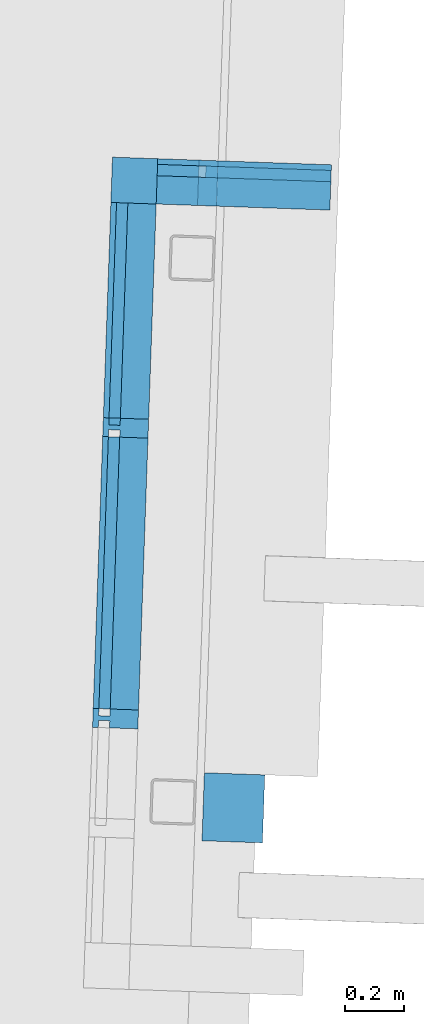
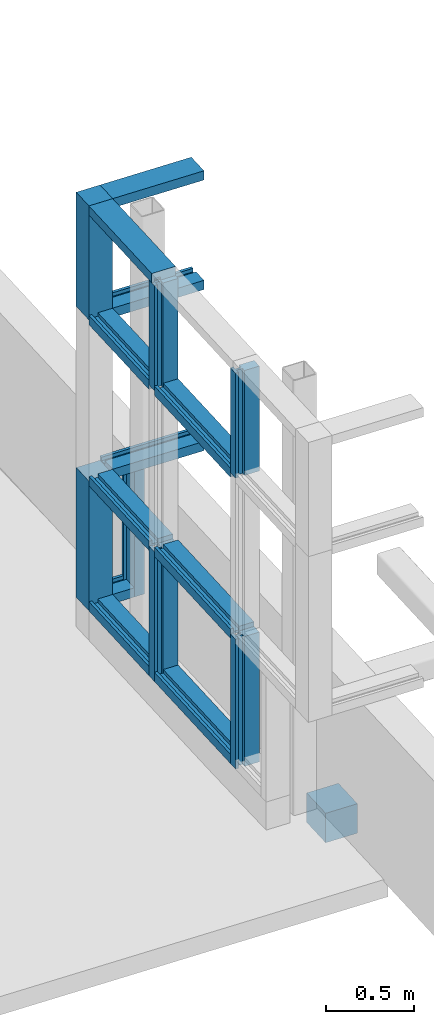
# One storey, part 3 of 8: 18 members, 1 beam, 2 elements without a shape of their own.
"""IFC2X3 building model written with IfcOpenShell, lengths in feet."""

import ifcopenshell
import ifcopenshell.guid

model = None  # the IFC model being written
_history = None  # IfcOwnerHistory: only IFC2X3 demands one
_inside = {}  # id of a spatial element -> (the spatial element, [elements in it])
_under = {}  # id of a project, library or spatial element -> (it, [spatial elements below it])
_declared = {}  # id of a project -> (the project, [libraries it declares])
_typed = {}  # id of a type object -> (the type object, [elements of that type])
_made_of = {}  # id of a material, layer set ... -> (it, [elements and type objects made of it])


def new_model(schema):
    """Start an empty IFC model of exactly this schema.

    Asked for "IFC4X3", IfcOpenShell would pick the latest addendum, in which some entities
    have other attributes; the version numbers below select the first issue.
    IFC2X3 requires an IfcOwnerHistory on every rooted entity: one is made here for all.
    """
    global model, _history
    if schema == "IFC4X3":
        model = ifcopenshell.file(schema_version=(4, 3, 0, 0))
    else:
        model = ifcopenshell.file(schema=schema)
    _inside.clear()
    _under.clear()
    _declared.clear()
    _typed.clear()
    _made_of.clear()
    _history = None
    if model.schema == "IFC2X3":
        org = make("IfcOrganization", Name="unknown")
        user = make(
            "IfcPersonAndOrganization",
            ThePerson=make("IfcPerson", FamilyName="unknown"),
            TheOrganization=org,
        )
        app = make(
            "IfcApplication",
            ApplicationDeveloper=org,
            Version="unknown",
            ApplicationFullName="unknown",
            ApplicationIdentifier="unknown",
        )
        _history = make(
            "IfcOwnerHistory",
            OwningUser=user,
            OwningApplication=app,
            ChangeAction="ADDED",
            CreationDate=0,
        )
    return model


def make(cls, **values):
    """One entity of the class cls with the attributes given. An attribute that is None is left unset."""
    return model.create_entity(
        cls, **{name: value for name, value in values.items() if value is not None}
    )


def entity(cls, *values):
    """Any entity or typed value of the class cls, its attributes in the order of the schema. None: left unset."""
    e = model.create_entity(cls)
    for i, value in enumerate(values):
        if value is not None:
            e[i] = value
    return e


def rooted(cls, **values):
    """An entity with a GlobalId (a new one), such as an element, a storey or a relation."""
    return make(cls, GlobalId=ifcopenshell.guid.new(), OwnerHistory=_history, **values)


def si_unit(unit_type, name, prefix=None):
    """IfcSIUnit, for example si_unit("LENGTHUNIT", "METRE", prefix="MILLI")."""
    return make("IfcSIUnit", UnitType=unit_type, Prefix=prefix, Name=name)


def converted_unit(unit_type, name, factor, base, dimensions=None, offset=None):
    """IfcConversionBasedUnit, such as the inch: factor (a typed value) times the base unit."""
    return make(
        "IfcConversionBasedUnit"
        if offset is None
        else "IfcConversionBasedUnitWithOffset",
        ConversionOffset=offset,
        Dimensions=None
        if dimensions is None
        else entity("IfcDimensionalExponents", *dimensions),
        UnitType=unit_type,
        Name=name,
        ConversionFactor=make(
            "IfcMeasureWithUnit", ValueComponent=factor, UnitComponent=base
        ),
    )


def derived_unit(unit_type, elements):
    """IfcDerivedUnit: a product of units, each with its exponent."""
    return make(
        "IfcDerivedUnit",
        Elements=[
            make("IfcDerivedUnitElement", Unit=unit, Exponent=power)
            for unit, power in elements
        ],
        UnitType=unit_type,
    )


def assignment(units):
    """IfcUnitAssignment: the units of a project."""
    return None if units is None else make("IfcUnitAssignment", Units=units)


def point(xyz):
    """IfcCartesianPoint."""
    return None if xyz is None else make("IfcCartesianPoint", Coordinates=xyz)


def direction(xyz):
    """IfcDirection."""
    return None if xyz is None else make("IfcDirection", DirectionRatios=xyz)


def frame(location, z_axis=None, x_axis=None):
    """IfcAxis2Placement3D, a coordinate frame: its origin and axes. An axis left out is left unset."""
    return make(
        "IfcAxis2Placement3D",
        Location=point(location),
        Axis=direction(z_axis),
        RefDirection=direction(x_axis),
    )


def frame_2d(location, x_axis=None):
    """IfcAxis2Placement2D, a coordinate frame in the plane: its origin and x axis."""
    return make(
        "IfcAxis2Placement2D", Location=point(location), RefDirection=direction(x_axis)
    )


def origin():
    """The frame at (0, 0, 0) with its axes left unset."""
    return frame((0.0, 0.0, 0.0))


def origin_2d_with_axis():
    """The frame at (0, 0) in the plane with the x axis (1, 0) written out."""
    return frame_2d((0.0, 0.0), x_axis=(1.0, 0.0))


def place(relative_to, where):
    """IfcLocalPlacement: puts the frame where relative to a parent placement (None: the world)."""
    return make(
        "IfcLocalPlacement", PlacementRelTo=relative_to, RelativePlacement=where
    )


def context(
    kind, dimensions, precision=None, world=None, true_north=None, identifier=None
):
    """IfcGeometricRepresentationContext, for example the 3D "Model" context."""
    return make(
        "IfcGeometricRepresentationContext",
        ContextIdentifier=identifier,
        ContextType=kind,
        CoordinateSpaceDimension=dimensions,
        Precision=precision,
        WorldCoordinateSystem=world,
        TrueNorth=true_north,
    )


def subcontext(parent, identifier, kind, view, scale=None):
    """IfcGeometricRepresentationSubContext, for example "Body" below "Model"."""
    return make(
        "IfcGeometricRepresentationSubContext",
        ContextIdentifier=identifier,
        ContextType=kind,
        ParentContext=parent,
        TargetScale=scale,
        TargetView=view,
    )


def project(units=None, contexts=None):
    """IfcProject with its units and contexts."""
    return rooted(
        "IfcProject",
        Name="project",
        RepresentationContexts=contexts,
        UnitsInContext=assignment(units),
    )


def spatial(cls, under=None, at=None, **own):
    """A site, building, storey or space (cls), placed at a placement, below another one or the project."""
    s = rooted(cls, ObjectPlacement=at, **own)
    if under is not None:
        _under.setdefault(under.id(), (under, []))[1].append(s)
    return s


def polyline(points):
    """IfcPolyline through the points."""
    return make("IfcPolyline", Points=[point(p) for p in points])


def profile(cls, at=None, kind="AREA", **sizes):
    """A parametric profile (cls). Its sizes go by their IFC names, for example OverallWidth=200.0."""
    return make(cls, ProfileType=kind, Position=at, **sizes)


def rectangle(**sizes):
    """IfcRectangleProfileDef."""
    return profile("IfcRectangleProfileDef", **sizes)


def outline(outer, holes=None, kind="AREA"):
    """IfcArbitraryClosedProfileDef: a profile drawn as a closed curve; with holes, ...WithVoids."""
    if holes is None:
        return make("IfcArbitraryClosedProfileDef", ProfileType=kind, OuterCurve=outer)
    return make(
        "IfcArbitraryProfileDefWithVoids",
        ProfileType=kind,
        OuterCurve=outer,
        InnerCurves=holes,
    )


def extrude(swept, where, along, depth):
    """IfcExtrudedAreaSolid: the profile swept, set in the frame where, extruded along a direction by depth."""
    return make(
        "IfcExtrudedAreaSolid",
        SweptArea=swept,
        Position=where,
        ExtrudedDirection=direction(along),
        Depth=depth,
    )


def shape(context_of_items, identifier, shape_type, items):
    """IfcShapeRepresentation: the items that make up one representation, for example the "Body"."""
    return make(
        "IfcShapeRepresentation",
        ContextOfItems=context_of_items,
        RepresentationIdentifier=identifier,
        RepresentationType=shape_type,
        Items=items,
    )


def material(Name=None, Category=None):
    """IfcMaterial."""
    return make("IfcMaterial", Name=Name, Category=Category)


def made_of(thing, what):
    """Note that an element or type object is made of a material, layer set ...; save() writes the relation."""
    if what is not None:
        _made_of.setdefault(what.id(), (what, []))[1].append(thing)
    return thing


def type_object(cls, material=None, **own):
    """A type object (cls), such as IfcWallType, which elements share."""
    return made_of(rooted(cls, **own), material)


def element(
    cls,
    number,
    at=None,
    inside=None,
    cuts=None,
    type_object=None,
    material=None,
    context=None,
    identifier="Body",
    shape_type=None,
    held_by="IfcProductDefinitionShape",
    body=None,
    shapes=None,
    **own,
):
    """One element of the class cls, such as IfcWall. Its Tag is "e" and its number.

    at: its placement. inside: the storey or other place that contains it. cuts: it is an
    opening in that element (IfcRelVoidsElement). A single representation is given by context,
    identifier, shape_type and body (its items); several are given by shapes. held_by: the class
    of the entity that holds the representations. save() writes the other relations.
    """
    e = rooted(cls, Tag="e%d" % number, ObjectPlacement=at, **own)
    if body is not None:
        shapes = [shape(context, identifier, shape_type, body)]
    if shapes is not None:
        e.Representation = make(held_by, Representations=shapes)
    if inside is not None:
        _inside.setdefault(inside.id(), (inside, []))[1].append(e)
    if cuts is not None:
        rooted(
            "IfcRelVoidsElement", RelatingBuildingElement=cuts, RelatedOpeningElement=e
        )
    if type_object is not None:
        _typed.setdefault(type_object.id(), (type_object, []))[1].append(e)
    return made_of(e, material)


def aggregate(whole, parts):
    """IfcRelAggregates: a whole, such as a stair, and the parts it consists of."""
    return rooted("IfcRelAggregates", RelatingObject=whole, RelatedObjects=parts)


def save(model, path):
    """Write the relations noted so far, then the file.

    IfcRelAggregates (storeys below a building ...), IfcRelContainedInSpatialStructure (elements
    in a storey), IfcRelDefinesByType, IfcRelAssociatesMaterial and IfcRelDeclares: one each for
    every whole, place, type object, material and project.
    """
    for whole, parts in _under.values():
        aggregate(whole, parts)
    for where, things in _inside.values():
        rooted(
            "IfcRelContainedInSpatialStructure",
            RelatedElements=things,
            RelatingStructure=where,
        )
    for kind, things in _typed.values():
        rooted("IfcRelDefinesByType", RelatedObjects=things, RelatingType=kind)
    for what, things in _made_of.values():
        rooted("IfcRelAssociatesMaterial", RelatedObjects=things, RelatingMaterial=what)
    for by, libraries in _declared.values():
        rooted("IfcRelDeclares", RelatingContext=by, RelatedDefinitions=libraries)
    model.write(path)


model = new_model("IFC2X3")

# Units and contexts
model_context = context("Model", 3, precision=0.0001, world=origin(), true_north=direction((0.999390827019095, 0.0348994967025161)))
body_context = subcontext(model_context, "Body", "Model", "MODEL_VIEW")
ifc_project = project(units=[converted_unit("LENGTHUNIT", "FOOT", entity("IfcRatioMeasure", 0.3048), si_unit("LENGTHUNIT", "METRE"), dimensions=[1, 0, 0, 0, 0, 0, 0]), converted_unit("AREAUNIT", "SQUARE FOOT", entity("IfcRatioMeasure", 0.09290304), si_unit("AREAUNIT", "SQUARE_METRE"), dimensions=[2, 0, 0, 0, 0, 0, 0]), converted_unit("VOLUMEUNIT", "CUBIC FOOT", entity("IfcRatioMeasure", 0.028316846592), si_unit("VOLUMEUNIT", "CUBIC_METRE"), dimensions=[3, 0, 0, 0, 0, 0, 0]), converted_unit("PLANEANGLEUNIT", "DEGREE", entity("IfcRatioMeasure", 0.0174532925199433), si_unit("PLANEANGLEUNIT", "RADIAN"), dimensions=[0, 0, 0, 0, 0, 0, 0]), si_unit("MASSUNIT", "GRAM", prefix="KILO"), si_unit("TIMEUNIT", "SECOND"), si_unit("FREQUENCYUNIT", "HERTZ"), si_unit("THERMODYNAMICTEMPERATUREUNIT", "DEGREE_CELSIUS"), derived_unit("THERMALTRANSMITTANCEUNIT", [(si_unit("MASSUNIT", "GRAM", prefix="KILO"), 1), (si_unit("THERMODYNAMICTEMPERATUREUNIT", "KELVIN"), -1), (si_unit("TIMEUNIT", "SECOND"), -3)]), derived_unit("VOLUMETRICFLOWRATEUNIT", [(si_unit("LENGTHUNIT", "METRE"), 3), (si_unit("TIMEUNIT", "SECOND"), -1)]), si_unit("ELECTRICCURRENTUNIT", "AMPERE"), si_unit("ELECTRICVOLTAGEUNIT", "VOLT"), si_unit("POWERUNIT", "WATT"), si_unit("FORCEUNIT", "NEWTON"), si_unit("ILLUMINANCEUNIT", "LUX"), si_unit("LUMINOUSFLUXUNIT", "LUMEN"), si_unit("LUMINOUSINTENSITYUNIT", "CANDELA"), derived_unit("USERDEFINED", [(si_unit("MASSUNIT", "GRAM", prefix="KILO"), -1), (si_unit("LENGTHUNIT", "METRE"), -2), (si_unit("TIMEUNIT", "SECOND"), 3), (si_unit("LUMINOUSFLUXUNIT", "LUMEN"), 1)]), derived_unit("LINEARVELOCITYUNIT", [(si_unit("LENGTHUNIT", "METRE"), 1), (si_unit("TIMEUNIT", "SECOND"), -1)]), si_unit("PRESSUREUNIT", "PASCAL"), derived_unit("USERDEFINED", [(si_unit("LENGTHUNIT", "METRE"), -2), (si_unit("MASSUNIT", "GRAM", prefix="KILO"), 1), (si_unit("TIMEUNIT", "SECOND"), -2)])], contexts=[model_context])

# Site, building, storey
site_placement = place(None, frame((892.518771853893, 322.38689265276, 0.00393700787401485), z_axis=(0.0, 0.0, 1.0), x_axis=(0.0348994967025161, 0.999390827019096, 0.0)))
site = spatial("IfcSite", under=ifc_project, at=site_placement, Name="Default", CompositionType="ELEMENT")
building_placement = place(site_placement, origin())
building = spatial("IfcBuilding", under=site, at=building_placement, CompositionType="ELEMENT")
storey_placement = place(building_placement, frame((0.0, 0.0, 607.0)))
storey = spatial("IfcBuildingStorey", under=building, at=storey_placement, Name="Existing Garage - Roof Level", CompositionType="ELEMENT", Elevation=607.0)

# Beam
ifc_material_1 = material(Name="Concrete - Cast-in-Place Concrete")
beam_placement = place(storey_placement, frame((105.927293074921, 236.097286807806, 0.0)))
element("IfcBeam", 1, at=beam_placement, inside=storey, material=ifc_material_1, Name="Concrete-Rectangular Beam:8\" x 8\"w", ObjectType="Concrete-Rectangular Beam:8\" x 8\"w", context=body_context, shape_type="SweptSolid", body=[
    extrude(rectangle(XDim=0.666666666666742, YDim=0.666666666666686, at=origin_2d_with_axis()), frame((1.0, 0.0, -0.333333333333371), z_axis=(1.0, 0.0, 0.0), x_axis=(0.0, 0.0, -1.0)), (0.0, 0.0, 1.0), 0.7500000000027),
])

# Curtain wall, members
curtain_wall_type = type_object("IfcCurtainWallType", Name="Curtain Wall:(Existing) Curtainwall - Blank", PredefinedType="NOTDEFINED")
curtain_wall_1_placement = place(storey_placement, frame((0.0, 0.0, -607.0)))
curtain_wall_1 = element("IfcCurtainWall", 2, at=curtain_wall_1_placement, inside=storey, type_object=curtain_wall_type, Name="Curtain Wall:(Existing) Curtainwall - Blank", ObjectType="Curtain Wall:(Existing) Curtainwall - Blank")
ifc_material_2 = material(Name="Metal - Aluminum")
member_1_placement = place(curtain_wall_1_placement, frame((0.0, 0.0, 607.0)))
member_1 = element("IfcMember", 3, at=member_1_placement, material=ifc_material_2, Name="Curtain Wall:(Existing) Curtainwall - Blank", ObjectType="Curtain Wall:(Existing) Curtainwall - Blank", context=body_context, shape_type="SweptSolid", body=[
    extrude(outline(polyline([(-0.13671875, -0.1875), (0.0716145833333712, -0.1875), (0.0716145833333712, -0.125), (-0.00651041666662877, -0.125), (-0.00651041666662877, 0.0), (0.0716145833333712, 0.0), (0.0716145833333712, 0.3125), (-0.13671875, 0.3125), (-0.13671875, -0.1875)])), frame((113.927296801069, 237.49312014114, 9.69661458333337), z_axis=(-1.0, 0.0, 0.0), x_axis=(0.0, 0.0, -1.0)), (0.0, 0.0, 1.0), 2.4791685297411),
])
member_2_placement = place(curtain_wall_1_placement, frame((0.0, 0.0, 607.0)))
member_2 = element("IfcMember", 4, at=member_2_placement, material=ifc_material_2, Name="Curtain Wall:(Existing) Curtainwall - Blank", ObjectType="Curtain Wall:(Existing) Curtainwall - Blank", context=body_context, shape_type="SweptSolid", body=[
    extrude(outline(polyline([(-0.104166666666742, -0.333333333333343), (0.104166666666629, -0.333333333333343), (0.104166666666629, -0.0208333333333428), (0.0260416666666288, -0.0208333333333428), (0.0260416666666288, 0.104166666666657), (0.104166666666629, 0.104166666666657), (0.104166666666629, 0.166666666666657), (-0.104166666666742, 0.166666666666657), (-0.104166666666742, 0.104166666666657), (-0.0260416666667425, 0.104166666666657), (-0.0260416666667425, -0.0208333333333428), (-0.104166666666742, -0.0208333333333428), (-0.104166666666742, -0.333333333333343)])), frame((111.552294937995, 237.513953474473, 0.770833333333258), z_axis=(1.0, 0.0, 0.0), x_axis=(0.0, 0.0, -1.0)), (0.0, 0.0, 1.0), 2.37500186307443),
])
member_3_placement = place(curtain_wall_1_placement, frame((0.0, 0.0, 607.0)))
member_3 = element("IfcMember", 5, at=member_3_placement, material=ifc_material_2, Name="Curtain Wall:(Existing) Curtainwall - Blank", ObjectType="Curtain Wall:(Existing) Curtainwall - Blank", context=body_context, shape_type="SweptSolid", body=[
    extrude(outline(polyline([(-0.104166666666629, -0.166666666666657), (0.104166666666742, -0.166666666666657), (0.104166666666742, -0.104166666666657), (0.0260416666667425, -0.104166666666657), (0.0260416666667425, 0.0208333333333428), (0.104166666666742, 0.0208333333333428), (0.104166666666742, 0.333333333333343), (-0.104166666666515, 0.333333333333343), (-0.104166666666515, 0.0208333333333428), (-0.0260416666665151, 0.0208333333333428), (-0.0260416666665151, -0.104166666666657), (-0.104166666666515, -0.104166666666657), (-0.104166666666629, -0.166666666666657)])), frame((113.92729680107, 237.513953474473, 7.25000000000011), z_axis=(-1.0, 0.0, 0.0), x_axis=(0.0, 0.0, -1.0)), (0.0, 0.0, 1.0), 2.37500186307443),
])
member_4_placement = place(curtain_wall_1_placement, frame((0.0, 0.0, 607.0)))
member_4 = element("IfcMember", 6, at=member_4_placement, material=ifc_material_2, Name="Curtain Wall:(Existing) Curtainwall - Blank", ObjectType="Curtain Wall:(Existing) Curtainwall - Blank", context=body_context, shape_type="SweptSolid", body=[
    extrude(outline(polyline([(-0.104166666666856, -0.166666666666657), (0.104166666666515, -0.166666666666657), (0.104166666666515, -0.104166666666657), (0.0260416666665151, -0.104166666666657), (0.0260416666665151, 0.0208333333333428), (0.104166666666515, 0.0208333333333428), (0.104166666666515, 0.333333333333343), (-0.104166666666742, 0.333333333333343), (-0.104166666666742, 0.0208333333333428), (-0.0260416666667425, 0.0208333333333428), (-0.0260416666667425, -0.104166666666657), (-0.104166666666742, -0.104166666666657), (-0.104166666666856, -0.166666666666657)])), frame((113.92729680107, 237.513953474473, 3.60416666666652), z_axis=(-1.0, 0.0, 0.0), x_axis=(0.0, 0.0, -1.0)), (0.0, 0.0, 1.0), 2.37500186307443),
])
member_5_placement = place(curtain_wall_1_placement, frame((0.0, 0.0, 607.0)))
member_5 = element("IfcMember", 7, at=member_5_placement, material=ifc_material_2, Name="Curtain Wall:(Existing) Curtainwall - Blank", ObjectType="Curtain Wall:(Existing) Curtainwall - Blank", context=body_context, shape_type="SweptSolid", body=[
    extrude(outline(polyline([(-0.104166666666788, -0.333333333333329), (0.104166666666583, -0.333333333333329), (0.104166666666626, -0.0208333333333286), (0.0260416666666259, -0.0208333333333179), (0.026041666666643, 0.104166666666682), (0.104166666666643, 0.104166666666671), (0.104166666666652, 0.166666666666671), (-0.10416666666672, 0.1666666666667), (-0.104166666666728, 0.1041666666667), (-0.0260416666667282, 0.104166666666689), (-0.0260416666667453, -0.0208333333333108), (-0.104166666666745, -0.0208333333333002), (-0.104166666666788, -0.333333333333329)])), frame((108.343961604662, 237.513953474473, 0.770833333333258), z_axis=(1.0, 0.0, 0.0), x_axis=(0.0, 0.0, -1.0)), (0.0, 0.0, 1.0), 3.00000000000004),
])
member_6_placement = place(curtain_wall_1_placement, frame((0.0, 0.0, 607.0)))
member_6 = element("IfcMember", 8, at=member_6_placement, material=ifc_material_2, Name="Curtain Wall:(Existing) Curtainwall - Blank", ObjectType="Curtain Wall:(Existing) Curtainwall - Blank", context=body_context, shape_type="SweptSolid", body=[
    extrude(outline(polyline([(-0.104166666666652, -0.166666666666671), (0.10416666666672, -0.166666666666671), (0.104166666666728, -0.104166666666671), (0.0260416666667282, -0.104166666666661), (0.0260416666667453, 0.0208333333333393), (0.104166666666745, 0.0208333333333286), (0.104166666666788, 0.333333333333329), (-0.10416666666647, 0.333333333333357), (-0.104166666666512, 0.020833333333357), (-0.0260416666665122, 0.0208333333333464), (-0.0260416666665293, -0.104166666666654), (-0.104166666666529, -0.104166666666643), (-0.104166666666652, -0.166666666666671)])), frame((111.343961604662, 237.513953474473, 7.25000000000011), z_axis=(-1.0, 0.0, 0.0), x_axis=(0.0, 0.0, -1.0)), (0.0, 0.0, 1.0), 3.00000000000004),
])
member_7_placement = place(curtain_wall_1_placement, frame((0.0, 0.0, 607.0)))
member_7 = element("IfcMember", 9, at=member_7_placement, material=ifc_material_2, Name="Curtain Wall:(Existing) Curtainwall - Blank", ObjectType="Curtain Wall:(Existing) Curtainwall - Blank", context=body_context, shape_type="SweptSolid", body=[
    extrude(outline(polyline([(-0.104166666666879, -0.166666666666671), (0.104166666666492, -0.166666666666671), (0.104166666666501, -0.104166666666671), (0.0260416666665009, -0.104166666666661), (0.0260416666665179, 0.0208333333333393), (0.104166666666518, 0.0208333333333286), (0.104166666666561, 0.333333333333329), (-0.104166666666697, 0.333333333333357), (-0.10416666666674, 0.020833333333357), (-0.0260416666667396, 0.0208333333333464), (-0.0260416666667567, -0.104166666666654), (-0.104166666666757, -0.104166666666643), (-0.104166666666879, -0.166666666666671)])), frame((111.343961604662, 237.513953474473, 3.60416666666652), z_axis=(-1.0, 0.0, 0.0), x_axis=(0.0, 0.0, -1.0)), (0.0, 0.0, 1.0), 3.00000000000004),
])
member_8_placement = place(curtain_wall_1_placement, frame((0.0, 0.0, 607.0)))
member_8 = element("IfcMember", 10, at=member_8_placement, material=ifc_material_2, Name="Curtain Wall:(Existing) Curtainwall - Blank", ObjectType="Curtain Wall:(Existing) Curtainwall - Blank", context=body_context, shape_type="SweptSolid", body=[
    extrude(outline(polyline([(-0.104166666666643, -0.166666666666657), (0.104166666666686, -0.166666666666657), (0.104166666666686, -0.104166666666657), (0.0260416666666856, -0.104166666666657), (0.0260416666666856, 0.0208333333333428), (0.1041666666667, 0.0208333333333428), (0.1041666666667, 0.333333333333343), (-0.104166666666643, 0.333333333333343), (-0.104166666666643, 0.0208333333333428), (-0.026041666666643, 0.0208333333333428), (-0.026041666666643, -0.104166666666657), (-0.104166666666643, -0.104166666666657), (-0.104166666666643, -0.166666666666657)])), frame((111.448128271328, 237.513953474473, 0.666666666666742), z_axis=(0.0, 0.0, 1.0), x_axis=(-1.0, 0.0, 0.0)), (0.0, 0.0, 1.0), 2.9375),
])
member_9_placement = place(curtain_wall_1_placement, frame((0.0, 0.0, 607.0)))
member_9 = element("IfcMember", 11, at=member_9_placement, material=ifc_material_2, Name="Curtain Wall:(Existing) Curtainwall - Blank", ObjectType="Curtain Wall:(Existing) Curtainwall - Blank", context=body_context, shape_type="SweptSolid", body=[
    extrude(outline(polyline([(-0.104166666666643, -0.166666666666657), (0.104166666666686, -0.166666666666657), (0.104166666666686, -0.104166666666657), (0.0260416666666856, -0.104166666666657), (0.0260416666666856, 0.0208333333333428), (0.1041666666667, 0.0208333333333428), (0.1041666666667, 0.333333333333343), (-0.104166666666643, 0.333333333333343), (-0.104166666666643, 0.0208333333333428), (-0.026041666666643, 0.0208333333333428), (-0.026041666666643, -0.104166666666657), (-0.104166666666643, -0.104166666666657), (-0.104166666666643, -0.166666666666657)])), frame((111.448128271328, 237.513953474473, 7.25), z_axis=(0.0, 0.0, 1.0), x_axis=(-1.0, 0.0, 0.0)), (0.0, 0.0, 1.0), 2.375),
])
member_10_placement = place(curtain_wall_1_placement, frame((0.0, 0.0, 607.0)))
member_10 = element("IfcMember", 12, at=member_10_placement, material=ifc_material_2, Name="Curtain Wall:(Existing) Curtainwall - Blank", ObjectType="Curtain Wall:(Existing) Curtainwall - Blank", context=body_context, shape_type="SweptSolid", body=[
    extrude(outline(polyline([(-0.104166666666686, -0.166666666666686), (0.104166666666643, -0.166666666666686), (0.104166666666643, -0.104166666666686), (0.026041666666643, -0.104166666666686), (0.026041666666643, 0.0208333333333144), (0.104166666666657, 0.0208333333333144), (0.104166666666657, 0.333333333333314), (-0.104166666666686, 0.333333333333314), (-0.104166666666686, 0.0208333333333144), (-0.0260416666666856, 0.0208333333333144), (-0.0260416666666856, -0.104166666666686), (-0.104166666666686, -0.104166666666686), (-0.104166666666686, -0.166666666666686)])), frame((108.239794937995, 237.513953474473, 7.25), z_axis=(0.0, 0.0, 1.0), x_axis=(-1.0, 0.0, 0.0)), (0.0, 0.0, 1.0), 2.375),
])
member_11_placement = place(curtain_wall_1_placement, frame((0.0, 0.0, 607.0)))
member_11 = element("IfcMember", 13, at=member_11_placement, material=ifc_material_2, Name="Curtain Wall:(Existing) Curtainwall - Blank", ObjectType="Curtain Wall:(Existing) Curtainwall - Blank", context=body_context, shape_type="SweptSolid", body=[
    extrude(outline(polyline([(-0.104166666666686, -0.166666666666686), (0.104166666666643, -0.166666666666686), (0.104166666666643, -0.104166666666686), (0.026041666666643, -0.104166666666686), (0.026041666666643, 0.0208333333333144), (0.104166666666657, 0.0208333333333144), (0.104166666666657, 0.333333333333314), (-0.104166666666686, 0.333333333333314), (-0.104166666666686, 0.0208333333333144), (-0.0260416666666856, 0.0208333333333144), (-0.0260416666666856, -0.104166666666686), (-0.104166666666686, -0.104166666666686), (-0.104166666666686, -0.166666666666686)])), frame((108.239794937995, 237.513953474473, 0.666666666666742), z_axis=(0.0, 0.0, 1.0), x_axis=(-1.0, 0.0, 0.0)), (0.0, 0.0, 1.0), 2.9375),
])
aggregate(curtain_wall_1, [member_1, member_2, member_3, member_4, member_5, member_6, member_7, member_8, member_9, member_10, member_11])

curtain_wall_2_placement = place(storey_placement, frame((0.0, 0.0, -607.0)))
curtain_wall_2 = element("IfcCurtainWall", 14, at=curtain_wall_2_placement, inside=storey, type_object=curtain_wall_type, Name="Curtain Wall:(Existing) Curtainwall - Blank", ObjectType="Curtain Wall:(Existing) Curtainwall - Blank")
member_12_placement = place(curtain_wall_2_placement, frame((0.0, 0.0, 607.0)))
member_12 = element("IfcMember", 15, at=member_12_placement, material=ifc_material_2, Name="Curtain Wall:(Existing) Curtainwall - Blank", ObjectType="Curtain Wall:(Existing) Curtainwall - Blank", context=body_context, shape_type="SweptSolid", body=[
    extrude(outline(polyline([(0.0, -0.0716145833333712), (0.3125, -0.0716145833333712), (0.3125, 0.136718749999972), (-0.1875, 0.136718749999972), (-0.1875, -0.0716145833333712), (-0.125, -0.0716145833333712), (-0.125, 0.00651041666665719), (0.0, 0.00651041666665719), (0.0, -0.0716145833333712)])), frame((114.239796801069, 236.652957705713, 0.666666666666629), z_axis=(0.0, 0.0, 1.0), x_axis=(-1.0, 0.0, 0.0)), (0.0, 0.0, 1.0), 2.83333333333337),
])
member_13_placement = place(curtain_wall_2_placement, frame((0.0, 0.0, 607.0)))
member_13 = element("IfcMember", 16, at=member_13_placement, material=ifc_material_2, Name="Curtain Wall:(Existing) Curtainwall - Blank", ObjectType="Curtain Wall:(Existing) Curtainwall - Blank", context=body_context, shape_type="SweptSolid", body=[
    extrude(rectangle(XDim=0.5, YDim=0.5, at=origin_2d_with_axis()), frame((114.177296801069, 237.43062014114, 9.83333333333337), z_axis=(0.0, 0.0, -1.0), x_axis=(-1.0, 0.0, 0.0)), (0.0, 0.0, 1.0), 2.58333333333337),
])
member_14_placement = place(curtain_wall_2_placement, frame((0.0, 0.0, 607.0)))
member_14 = element("IfcMember", 17, at=member_14_placement, material=ifc_material_2, Name="Curtain Wall:(Existing) Curtainwall - Blank", ObjectType="Curtain Wall:(Existing) Curtainwall - Blank", context=body_context, shape_type="SweptSolid", body=[
    extrude(rectangle(XDim=0.5, YDim=0.5, at=origin_2d_with_axis()), frame((114.177296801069, 237.43062014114, 3.60416666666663), z_axis=(0.0, 0.0, -1.0), x_axis=(-1.0, 0.0, 0.0)), (0.0, 0.0, 1.0), 2.9375),
])
member_15_placement = place(curtain_wall_2_placement, frame((0.0, 0.0, 607.0)))
member_15 = element("IfcMember", 18, at=member_15_placement, material=ifc_material_2, Name="Curtain Wall:(Existing) Curtainwall - Blank", ObjectType="Curtain Wall:(Existing) Curtainwall - Blank", context=body_context, shape_type="SweptSolid", body=[
    extrude(outline(polyline([(-0.0716145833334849, -0.1875), (0.136718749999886, -0.1875), (0.136718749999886, 0.3125), (-0.0716145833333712, 0.3125), (-0.0716145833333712, 0.0), (0.00651041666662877, 0.0), (0.00651041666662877, -0.125), (-0.0716145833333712, -0.125), (-0.0716145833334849, -0.1875)])), frame((114.239796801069, 235.263953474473, 3.63671874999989), z_axis=(0.0, 1.0, 0.0), x_axis=(0.0, 0.0, -1.0)), (0.0, 0.0, 1.0), 1.91666666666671),
])
member_16_placement = place(curtain_wall_2_placement, frame((0.0, 0.0, 607.0)))
member_16 = element("IfcMember", 19, at=member_16_placement, material=ifc_material_2, Name="Curtain Wall:(Existing) Curtainwall - Blank", ObjectType="Curtain Wall:(Existing) Curtainwall - Blank", context=body_context, shape_type="SweptSolid", body=[
    extrude(outline(polyline([(-0.13671875, -0.1875), (0.0716145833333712, -0.1875), (0.0716145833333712, -0.125), (-0.00651041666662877, -0.125), (-0.00651041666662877, 0.0), (0.0716145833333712, 0.0), (0.0716145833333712, 0.3125), (-0.13671875, 0.3125), (-0.13671875, -0.1875)])), frame((114.239796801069, 235.263953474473, 9.69661458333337), z_axis=(0.0, 1.0, 0.0), x_axis=(0.0, 0.0, -1.0)), (0.0, 0.0, 1.0), 1.91666666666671),
])
member_17_placement = place(curtain_wall_2_placement, frame((0.0, 0.0, 607.0)))
member_17 = element("IfcMember", 20, at=member_17_placement, material=ifc_material_2, Name="Curtain Wall:(Existing) Curtainwall - Blank", ObjectType="Curtain Wall:(Existing) Curtainwall - Blank", context=body_context, shape_type="SweptSolid", body=[
    extrude(outline(polyline([(-0.104166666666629, -0.166666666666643), (0.104166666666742, -0.166666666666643), (0.104166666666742, -0.104166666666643), (0.0260416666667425, -0.104166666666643), (0.0260416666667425, 0.020833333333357), (0.104166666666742, 0.020833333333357), (0.104166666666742, 0.333333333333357), (-0.104166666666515, 0.333333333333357), (-0.104166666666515, 0.020833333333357), (-0.0260416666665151, 0.020833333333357), (-0.0260416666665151, -0.104166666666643), (-0.104166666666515, -0.104166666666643), (-0.104166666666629, -0.166666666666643)])), frame((114.260630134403, 235.263953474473, 7.25000000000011), z_axis=(0.0, 1.0, 0.0), x_axis=(0.0, 0.0, -1.0)), (0.0, 0.0, 1.0), 1.91666666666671),
])
member_18_placement = place(curtain_wall_2_placement, frame((0.0, 0.0, 607.0)))
member_18 = element("IfcMember", 21, at=member_18_placement, material=ifc_material_2, Name="Curtain Wall:(Existing) Curtainwall - Blank", ObjectType="Curtain Wall:(Existing) Curtainwall - Blank", context=body_context, shape_type="SweptSolid", body=[
    extrude(outline(polyline([(-0.104166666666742, -0.333333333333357), (0.104166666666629, -0.333333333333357), (0.104166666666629, -0.020833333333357), (0.0260416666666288, -0.020833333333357), (0.0260416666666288, 0.104166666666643), (0.104166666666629, 0.104166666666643), (0.104166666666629, 0.166666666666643), (-0.104166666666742, 0.166666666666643), (-0.104166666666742, 0.104166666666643), (-0.0260416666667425, 0.104166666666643), (-0.0260416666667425, -0.020833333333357), (-0.104166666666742, -0.020833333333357), (-0.104166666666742, -0.333333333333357)])), frame((114.260630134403, 237.18062014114, 0.770833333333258), z_axis=(0.0, -1.0, 0.0), x_axis=(0.0, 0.0, -1.0)), (0.0, 0.0, 1.0), 0.456047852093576),
])
aggregate(curtain_wall_2, [member_12, member_13, member_14, member_15, member_16, member_17, member_18])

save(model, "model.ifc")
